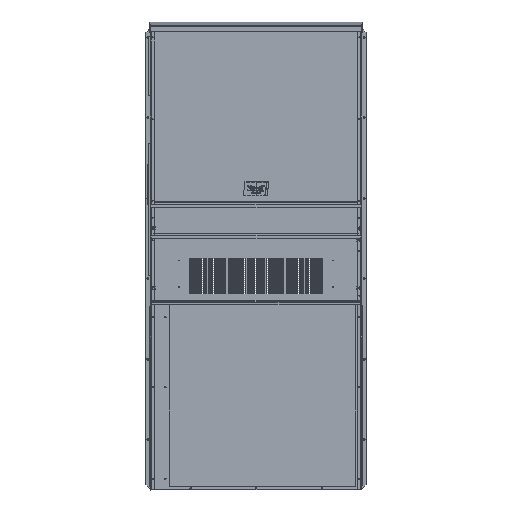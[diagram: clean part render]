
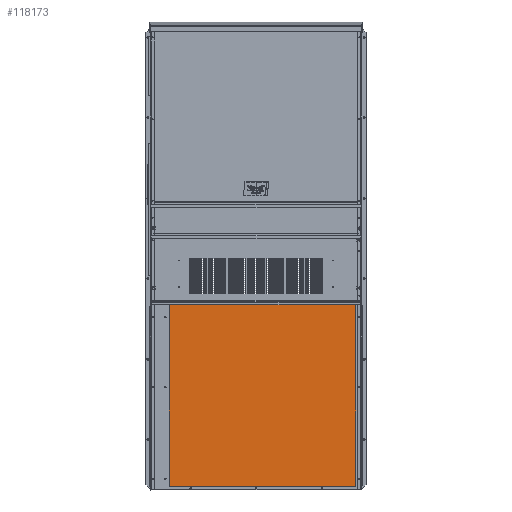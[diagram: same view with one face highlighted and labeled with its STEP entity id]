
A CAD part, top view. The second image highlights one B-rep face of the part: STEP entity #118173.
In plain terms, the highlighted planar face has unit normal (0, 0, 1).
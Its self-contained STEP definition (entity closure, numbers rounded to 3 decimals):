
#5607 = CARTESIAN_POINT ( 'NONE',  ( -0.425, 0.707, 0.025 ) ) ;
#12472 = CARTESIAN_POINT ( 'NONE',  ( 40.769, 36.771, 0.025 ) ) ;
#17237 = VERTEX_POINT ( 'NONE', #61368 ) ;
#20540 = LINE ( 'NONE', #5607, #82718 ) ;
#22740 = FACE_OUTER_BOUND ( 'NONE', #78787, .T. ) ;
#41771 = VECTOR ( 'NONE', #45827, 39.37 ) ;
#45827 = DIRECTION ( 'NONE',  ( 0., 1., 0. ) ) ;
#47069 = CARTESIAN_POINT ( 'NONE',  ( 3.696, 36.771, 0.025 ) ) ;
#50644 = CARTESIAN_POINT ( 'NONE',  ( 3.696, 37.354, 0.025 ) ) ;
#53359 = VECTOR ( 'NONE', #100048, 39.37 ) ;
#56366 = EDGE_CURVE ( 'NONE', #99166, #17237, #148175, .T. ) ;
#61368 = CARTESIAN_POINT ( 'NONE',  ( 3.696, 0.707, 0.025 ) ) ;
#65620 = ORIENTED_EDGE ( 'NONE', *, *, #142326, .T. ) ;
#68090 = LINE ( 'NONE', #85227, #155004 ) ;
#74778 = LINE ( 'NONE', #106589, #41771 ) ;
#78787 = EDGE_LOOP ( 'NONE', ( #65620, #133504, #149663, #119971 ) ) ;
#80531 = CARTESIAN_POINT ( 'NONE',  ( 40.769, 0.707, 0.025 ) ) ;
#82718 = VECTOR ( 'NONE', #143066, 39.37 ) ;
#85227 = CARTESIAN_POINT ( 'NONE',  ( -0.425, 36.771, 0.025 ) ) ;
#90591 = VERTEX_POINT ( 'NONE', #80531 ) ;
#99166 = VERTEX_POINT ( 'NONE', #47069 ) ;
#100048 = DIRECTION ( 'NONE',  ( 0., -1., 0. ) ) ;
#106589 = CARTESIAN_POINT ( 'NONE',  ( 40.769, 37.354, 0.025 ) ) ;
#117218 = EDGE_CURVE ( 'NONE', #17237, #90591, #20540, .T. ) ;
#118173 = ADVANCED_FACE ( 'NONE', ( #22740 ), #133569, .T. ) ;
#119633 = EDGE_CURVE ( 'NONE', #90591, #156164, #74778, .T. ) ;
#119971 = ORIENTED_EDGE ( 'NONE', *, *, #119633, .T. ) ;
#121145 = CARTESIAN_POINT ( 'NONE',  ( -0.425, 37.354, 0.025 ) ) ;
#133027 = DIRECTION ( 'NONE',  ( 0., 0., 1. ) ) ;
#133504 = ORIENTED_EDGE ( 'NONE', *, *, #56366, .T. ) ;
#133569 = PLANE ( 'NONE',  #152233 ) ;
#142326 = EDGE_CURVE ( 'NONE', #156164, #99166, #68090, .T. ) ;
#143066 = DIRECTION ( 'NONE',  ( 1., 0., 0. ) ) ;
#145944 = DIRECTION ( 'NONE',  ( 0., -1., 0. ) ) ;
#146712 = DIRECTION ( 'NONE',  ( -1., 0., 0. ) ) ;
#148175 = LINE ( 'NONE', #50644, #53359 ) ;
#149663 = ORIENTED_EDGE ( 'NONE', *, *, #117218, .T. ) ;
#152233 = AXIS2_PLACEMENT_3D ( 'NONE', #121145, #133027, #145944 ) ;
#155004 = VECTOR ( 'NONE', #146712, 39.37 ) ;
#156164 = VERTEX_POINT ( 'NONE', #12472 ) ;
